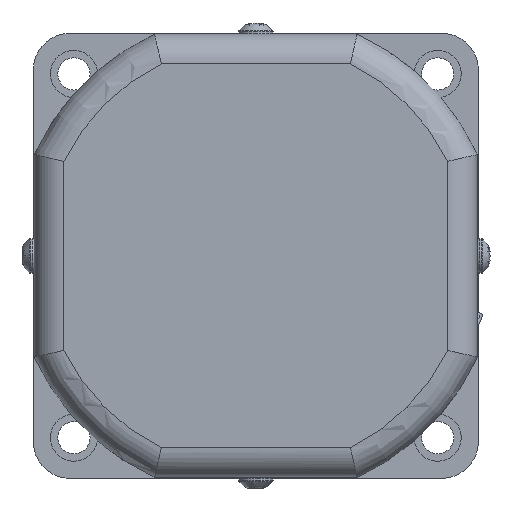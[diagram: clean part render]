
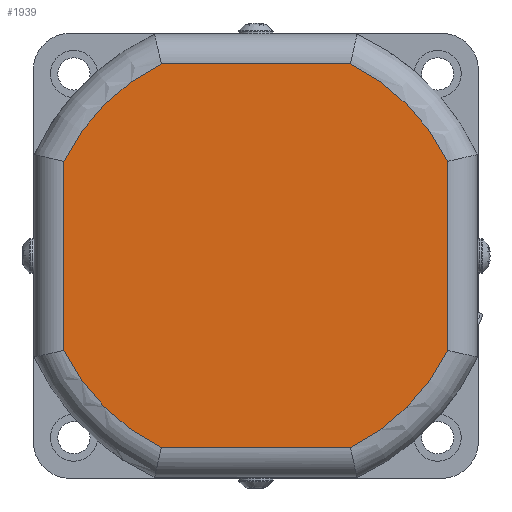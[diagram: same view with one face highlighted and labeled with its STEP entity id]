
A CAD part, left-side view. The second image highlights one B-rep face of the part: STEP entity #1939.
In plain terms, the highlighted planar face has unit normal (-1, 0, 0).
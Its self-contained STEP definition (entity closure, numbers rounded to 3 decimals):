
#1597=CARTESIAN_POINT('',(-23.,-38.8,19.108));
#1598=VERTEX_POINT('',#1597);
#1623=CARTESIAN_POINT('',(-23.,-19.108,38.8));
#1624=VERTEX_POINT('',#1623);
#1642=CARTESIAN_POINT('',(-23.,0.,0.));
#1643=DIRECTION('',(1.0,0.,0.));
#1644=DIRECTION('',(0.,-0.707,0.707));
#1645=AXIS2_PLACEMENT_3D('',#1642,#1643,#1644);
#1646=CIRCLE('',#1645,43.25);
#1647=EDGE_CURVE('',#1624,#1598,#1646,.T.);
#1657=CARTESIAN_POINT('',(-23.,19.108,38.8));
#1658=VERTEX_POINT('',#1657);
#1676=CARTESIAN_POINT('',(-23.,19.108,38.8));
#1677=DIRECTION('',(0.0,-1.0,0.0));
#1678=VECTOR('',#1677,38.216);
#1679=LINE('',#1676,#1678);
#1680=EDGE_CURVE('',#1658,#1624,#1679,.T.);
#1692=CARTESIAN_POINT('',(-23.,-38.8,-19.108));
#1693=VERTEX_POINT('',#1692);
#1713=CARTESIAN_POINT('',(-23.,-38.8,19.108));
#1714=DIRECTION('',(0.0,0.0,-1.0));
#1715=VECTOR('',#1714,38.216);
#1716=LINE('',#1713,#1715);
#1717=EDGE_CURVE('',#1598,#1693,#1716,.T.);
#1727=CARTESIAN_POINT('',(-23.,38.8,19.108));
#1728=VERTEX_POINT('',#1727);
#1746=CARTESIAN_POINT('',(-23.,0.,0.));
#1747=DIRECTION('',(1.0,0.,0.));
#1748=DIRECTION('',(0.,0.707,0.707));
#1749=AXIS2_PLACEMENT_3D('',#1746,#1747,#1748);
#1750=CIRCLE('',#1749,43.25);
#1751=EDGE_CURVE('',#1728,#1658,#1750,.T.);
#1769=CARTESIAN_POINT('',(-23.,-19.108,-38.8));
#1770=VERTEX_POINT('',#1769);
#1796=CARTESIAN_POINT('',(-23.,0.,0.));
#1797=DIRECTION('',(1.0,0.,0.));
#1798=DIRECTION('',(0.,-0.707,-0.707));
#1799=AXIS2_PLACEMENT_3D('',#1796,#1797,#1798);
#1800=CIRCLE('',#1799,43.25);
#1801=EDGE_CURVE('',#1693,#1770,#1800,.T.);
#1811=CARTESIAN_POINT('',(-23.,38.8,-19.108));
#1812=VERTEX_POINT('',#1811);
#1830=CARTESIAN_POINT('',(-23.,38.8,-19.108));
#1831=DIRECTION('',(0.0,0.0,1.0));
#1832=VECTOR('',#1831,38.216);
#1833=LINE('',#1830,#1832);
#1834=EDGE_CURVE('',#1812,#1728,#1833,.T.);
#1846=CARTESIAN_POINT('',(-23.,19.108,-38.8));
#1847=VERTEX_POINT('',#1846);
#1867=CARTESIAN_POINT('',(-23.,-19.108,-38.8));
#1868=DIRECTION('',(0.0,1.0,0.0));
#1869=VECTOR('',#1868,38.216);
#1870=LINE('',#1867,#1869);
#1871=EDGE_CURVE('',#1770,#1847,#1870,.T.);
#1882=CARTESIAN_POINT('',(-23.,0.,0.));
#1883=DIRECTION('',(1.,0.,0.));
#1884=DIRECTION('',(0.,0.707,-0.707));
#1885=AXIS2_PLACEMENT_3D('',#1882,#1883,#1884);
#1886=CIRCLE('',#1885,43.25);
#1887=EDGE_CURVE('',#1847,#1812,#1886,.T.);
#1924=CARTESIAN_POINT('',(-23.,0.,0.));
#1925=DIRECTION('',(1.0,0.0,0.0));
#1926=DIRECTION('',(0.0,-1.0,0.0));
#1927=AXIS2_PLACEMENT_3D('',#1924,#1925,#1926);
#1928=PLANE('',#1927);
#1929=ORIENTED_EDGE('',*,*,#1871,.F.);
#1930=ORIENTED_EDGE('',*,*,#1801,.F.);
#1931=ORIENTED_EDGE('',*,*,#1717,.F.);
#1932=ORIENTED_EDGE('',*,*,#1647,.F.);
#1933=ORIENTED_EDGE('',*,*,#1680,.F.);
#1934=ORIENTED_EDGE('',*,*,#1751,.F.);
#1935=ORIENTED_EDGE('',*,*,#1834,.F.);
#1936=ORIENTED_EDGE('',*,*,#1887,.F.);
#1937=EDGE_LOOP('',(#1929,#1930,#1931,#1932,#1933,#1934,#1935,#1936));
#1938=FACE_OUTER_BOUND('',#1937,.T.);
#1939=ADVANCED_FACE('',(#1938),#1928,.F.);
